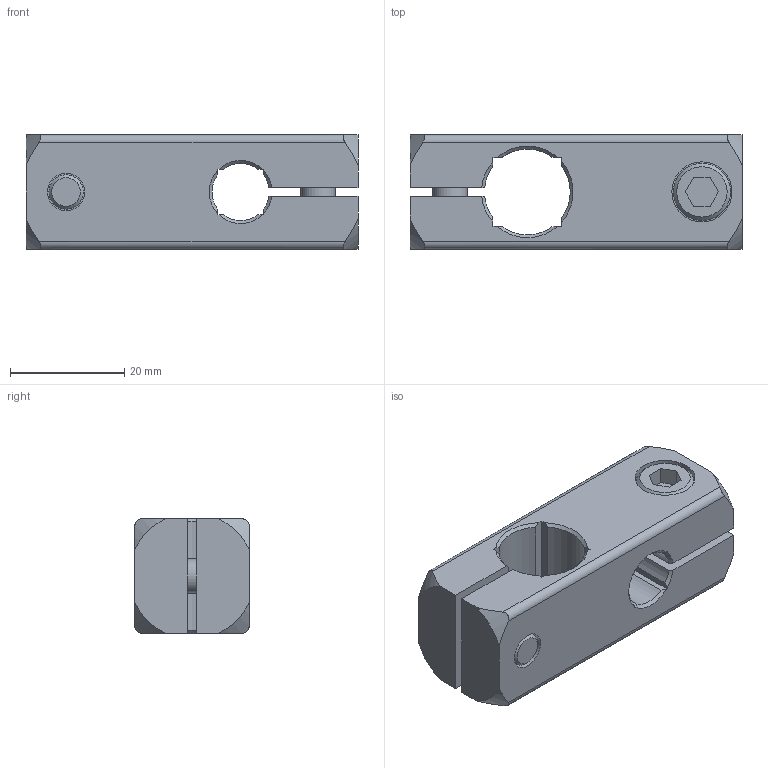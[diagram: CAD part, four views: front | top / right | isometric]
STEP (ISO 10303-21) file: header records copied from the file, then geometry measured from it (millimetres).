
FILE_DESCRIPTION( ( 'STEP AP203' ), '1' );
FILE_NAME( 'C:/Temp/Ganter_Step_05_03_2020/data/3_7/gn_474/Two-way clamp mounting GN 474-B15-B10-ELS.stp', '2020-03-12T14:44:47', ( 'License CC BY-ND 4.0' ), ( 'CADENAS' ), ' ', 'PARTsolutions', ' ' );
FILE_SCHEMA( ( 'CONFIG_CONTROL_DESIGN' ) );
Length unit declared in the file: millimetre
Products named in the file (1): _Two-way clamp mounting GN 474-B15-B10-ELS
Bounding box: 58 x 20 x 20 mm (x, y, z)
Volume: 16658.5 mm3; surface area: 9043.7 mm2
Topology: 1 solids, 1 shells, 106 faces, 280 edges, 186 vertices
Faces by surface type: plane 50, cone 32, cylinder 24
Full cylindrical faces by diameter (mm): 6 x2, 6.5 x4, 10 x2, 10.5 x2
Entity records: 3404 total; most frequent: CARTESIAN_POINT 843, ORIENTED_EDGE 528, DIRECTION 486, EDGE_CURVE 264, VERTEX_POINT 184, AXIS2_PLACEMENT_3D 179, EDGE_LOOP 134, LINE 128
